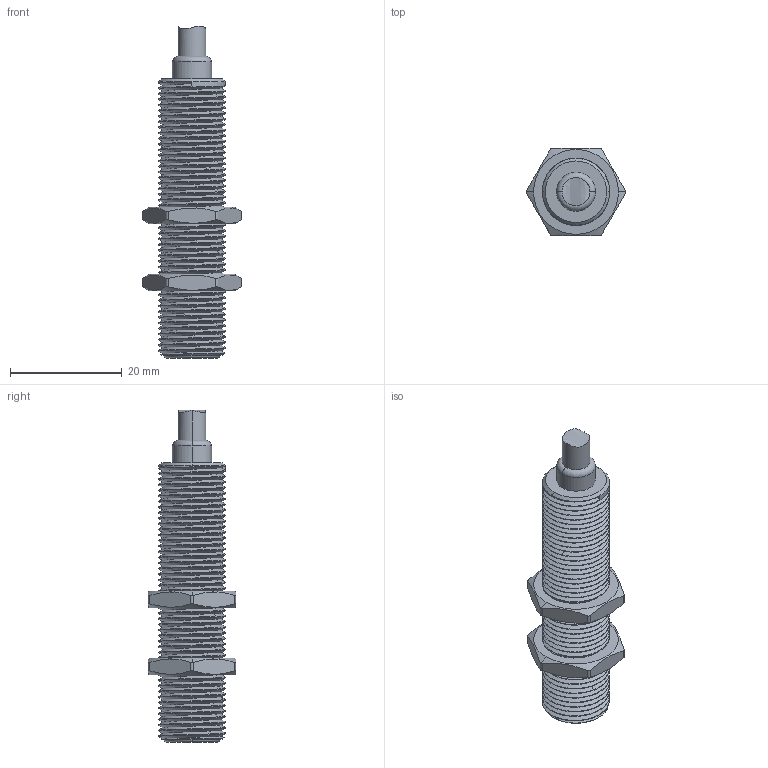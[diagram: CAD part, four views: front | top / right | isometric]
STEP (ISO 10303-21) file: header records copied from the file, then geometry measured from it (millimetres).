
FILE_DESCRIPTION((''),'2;1');
FILE_NAME('M12_QP_L50_ASM','2019-07-16T',('Administrator'),(''),'PRO/ENGINEER BY PARAMETRIC TECHNOLOGY CORPORATION, 2012130','PRO/ENGINEER BY PARAMETRIC TECHNOLOGY CORPORATION, 2012130','');
FILE_SCHEMA(('AUTOMOTIVE_DESIGN { 1 0 10303 214 1 1 1 1 }'));
Length unit declared in the file: millimetre
Products named in the file (3): M12_QP_L50; M12_LM; M12_QP_L50_ASM
Assembly tree (3 placements, depth 2):
  M12_QP_L50_ASM
    M12_QP_L50
    M12_LM  x2
Bounding box: 17.85 x 15.59 x 59.44 mm (x, y, z)
Volume: 5898.1 mm3; surface area: 4709.8 mm2
Topology: 3 solids, 3 shells, 193 faces, 535 edges, 350 vertices
Faces by surface type: cylinder 124, bspline 30, plane 23, cone 11, torus 4, extrusion 1
Entity records: 18663 total; most frequent: CARTESIAN_POINT 14562, ORIENTED_EDGE 920, DIRECTION 497, EDGE_CURVE 460, VERTEX_POINT 300, B_SPLINE_CURVE_WITH_KNOTS 278, AXIS2_PLACEMENT_3D 170, EDGE_LOOP 170
